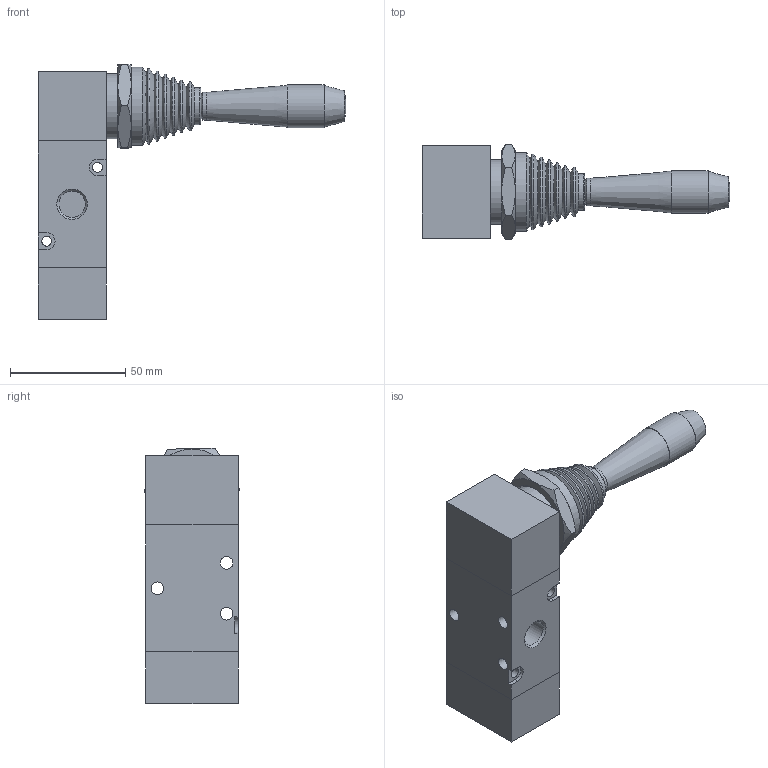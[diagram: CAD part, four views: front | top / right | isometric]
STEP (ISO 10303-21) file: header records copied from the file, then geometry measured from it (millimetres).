
FILE_DESCRIPTION((''),'2;1');
FILE_NAME('I:\Area Tecnica\Disegni\VARIE-3D\Componenti\T200\T224\T224_32_9_1-#.stp','2009-07-01T08:26:00',('rivolro1'),(''),'Autodesk Inventor 2010','Autodesk Inventor 2010','');
FILE_SCHEMA(('AUTOMOTIVE_DESIGN { 1 0 10303 214 1 1 1 1 }'));
Length unit declared in the file: millimetre
Products named in the file (3): T224_32_9_1-#; RS-214-13
Assembly tree (2 placements, depth 2):
  T224_32_9_1-#
    T224_32_9_1-#
    RS-214-13
Bounding box: 133.5 x 41.56 x 110.66 mm (x, y, z)
Volume: 153159.4 mm3; surface area: 39244.8 mm2
Topology: 7 solids, 7 shells, 100 faces, 203 edges, 125 vertices
Faces by surface type: plane 43, cone 22, cylinder 18, bspline 10, torus 7
Full cylindrical faces by diameter (mm): 0.002 x2, 4.25 x2, 5.5 x3, 12.002 x1, 16 x1, 18.502 x1, 28 x1, 28.002 x2, 29.5 x1, 32 x1, 34 x1
Entity records: 2623 total; most frequent: CARTESIAN_POINT 538, DIRECTION 402, ORIENTED_EDGE 298, EDGE_LOOP 176, AXIS2_PLACEMENT_3D 170, EDGE_CURVE 149, VERTEX_POINT 123, FACE_OUTER_BOUND 100
